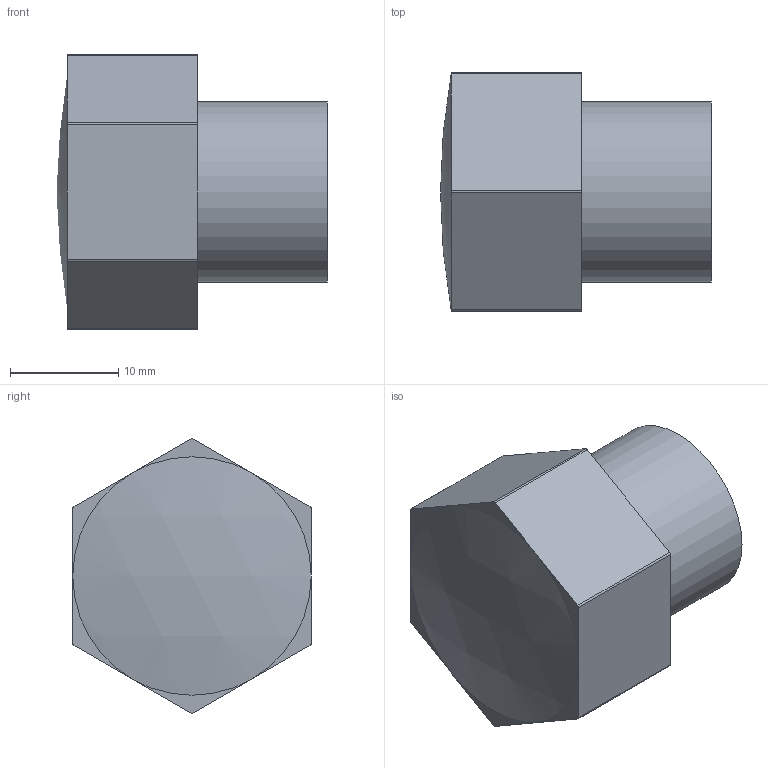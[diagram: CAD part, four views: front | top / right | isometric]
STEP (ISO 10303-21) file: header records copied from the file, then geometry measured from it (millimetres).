
FILE_DESCRIPTION(/* description */ ('PLASSON THREADED PLUG PVC 3/8"'),/* implementation_level */ '2;1');
FILE_NAME(/* name */ 'C:\Dropbox\KIMPROJECTS-Inventor\99-16-3568-Processing\PVC Catalog 2017\051701\051701003.ipt.stp',/* time_stamp */ '2017-12-07T16:01:12+02:00',/* author */ ('KIM'),/* organization */ (''),/* preprocessor_version */ 'ST-DEVELOPER v15.6',/* originating_system */ 'Autodesk Inventor 2015',/* authorisation */ '');
FILE_SCHEMA (('AUTOMOTIVE_DESIGN { 1 0 10303 214 3 1 1 }'));
Length unit declared in the file: millimetre
Products named in the file (1): 051701003
Bounding box: 25 x 22 x 25.34 mm (x, y, z)
Volume: 5365.8 mm3; surface area: 3115.8 mm2
Topology: 1 solids, 1 shells, 24 faces, 54 edges, 34 vertices
Faces by surface type: plane 14, cylinder 8, sphere 2
Full cylindrical faces by diameter (mm): 13.33 x1, 16.662 x1
Entity records: 686 total; most frequent: DIRECTION 124, CARTESIAN_POINT 111, ORIENTED_EDGE 104, EDGE_CURVE 52, AXIS2_PLACEMENT_3D 47, VERTEX_POINT 34, LINE 30, VECTOR 30
